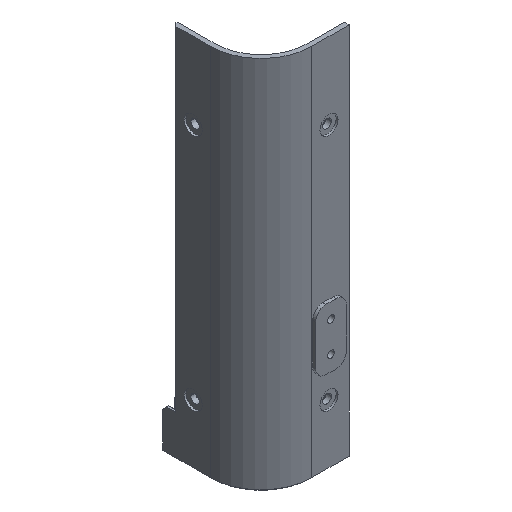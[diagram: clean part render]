
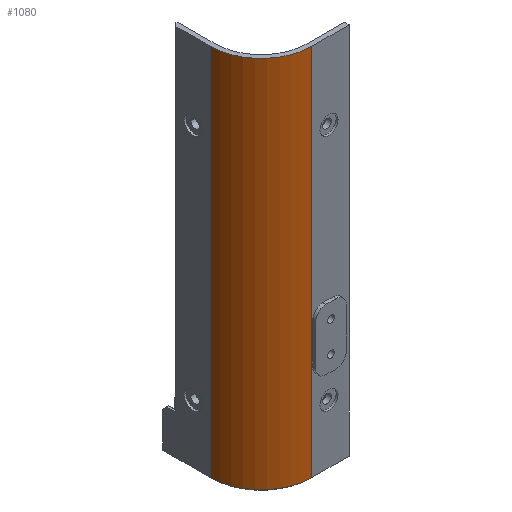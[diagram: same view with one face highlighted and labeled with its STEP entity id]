
A CAD part, isometric view. The second image highlights one B-rep face of the part: STEP entity #1080.
In plain terms, the highlighted cylindrical face has radius 25 mm (diameter 50 mm), a partial arc.
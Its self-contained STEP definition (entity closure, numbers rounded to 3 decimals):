
#256 = EDGE_LOOP ( 'NONE', ( #4807, #2706, #2325, #4453 ) ) ;
#383 = CARTESIAN_POINT ( 'NONE',  ( 0., -25., 183.75 ) ) ;
#401 = VECTOR ( 'NONE', #1696, 1000. ) ;
#416 = EDGE_CURVE ( 'NONE', #5034, #976, #3311, .T. ) ;
#423 = DIRECTION ( 'NONE',  ( 0., 0., 1. ) ) ;
#478 = VERTEX_POINT ( 'NONE', #1689 ) ;
#492 = CARTESIAN_POINT ( 'NONE',  ( 0., -25., -0.5 ) ) ;
#576 = CIRCLE ( 'NONE', #4483, 25. ) ;
#841 = DIRECTION ( 'NONE',  ( 1., 0., 0. ) ) ;
#893 = DIRECTION ( 'NONE',  ( -1., 0., 0. ) ) ;
#976 = VERTEX_POINT ( 'NONE', #492 ) ;
#1080 = ADVANCED_FACE ( 'NONE', ( #1188 ), #3798, .T. ) ;
#1111 = EDGE_CURVE ( 'NONE', #478, #1909, #576, .T. ) ;
#1160 = DIRECTION ( 'NONE',  ( 0., 0., 1. ) ) ;
#1187 = EDGE_CURVE ( 'NONE', #478, #5034, #4527, .T. ) ;
#1188 = FACE_OUTER_BOUND ( 'NONE', #256, .T. ) ;
#1583 = VECTOR ( 'NONE', #2604, 1000. ) ;
#1681 = DIRECTION ( 'NONE',  ( 0., 0., -1. ) ) ;
#1689 = CARTESIAN_POINT ( 'NONE',  ( -25., 0., 183.75 ) ) ;
#1696 = DIRECTION ( 'NONE',  ( 0., 0., -1. ) ) ;
#1909 = VERTEX_POINT ( 'NONE', #383 ) ;
#1964 = CARTESIAN_POINT ( 'NONE',  ( 0., 0., -0.5 ) ) ;
#2317 = LINE ( 'NONE', #4981, #1583 ) ;
#2325 = ORIENTED_EDGE ( 'NONE', *, *, #3665, .F. ) ;
#2604 = DIRECTION ( 'NONE',  ( 0., 0., -1. ) ) ;
#2706 = ORIENTED_EDGE ( 'NONE', *, *, #416, .T. ) ;
#2988 = CARTESIAN_POINT ( 'NONE',  ( -25., 0., -0.5 ) ) ;
#3188 = CARTESIAN_POINT ( 'NONE',  ( 0., 0., 183.75 ) ) ;
#3298 = AXIS2_PLACEMENT_3D ( 'NONE', #1964, #1160, #3463 ) ;
#3311 = CIRCLE ( 'NONE', #3298, 25. ) ;
#3463 = DIRECTION ( 'NONE',  ( 1., 0., 0. ) ) ;
#3615 = CARTESIAN_POINT ( 'NONE',  ( -25., 0., 368.5 ) ) ;
#3665 = EDGE_CURVE ( 'NONE', #1909, #976, #2317, .T. ) ;
#3798 = CYLINDRICAL_SURFACE ( 'NONE', #3956, 25. ) ;
#3956 = AXIS2_PLACEMENT_3D ( 'NONE', #4379, #1681, #893 ) ;
#4379 = CARTESIAN_POINT ( 'NONE',  ( 0., 0., 368.5 ) ) ;
#4453 = ORIENTED_EDGE ( 'NONE', *, *, #1111, .F. ) ;
#4483 = AXIS2_PLACEMENT_3D ( 'NONE', #3188, #423, #841 ) ;
#4527 = LINE ( 'NONE', #3615, #401 ) ;
#4807 = ORIENTED_EDGE ( 'NONE', *, *, #1187, .T. ) ;
#4981 = CARTESIAN_POINT ( 'NONE',  ( 0., -25., 368.5 ) ) ;
#5034 = VERTEX_POINT ( 'NONE', #2988 ) ;
